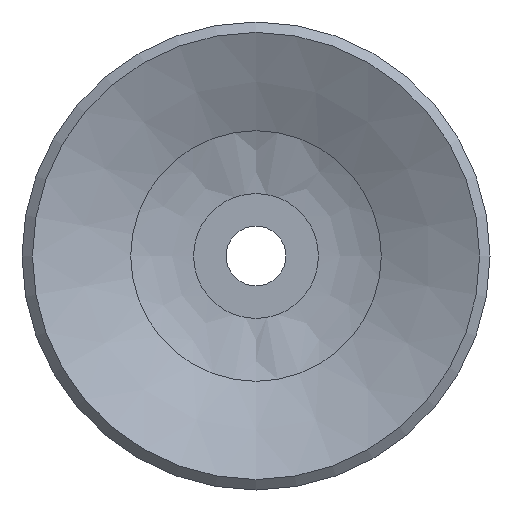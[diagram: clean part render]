
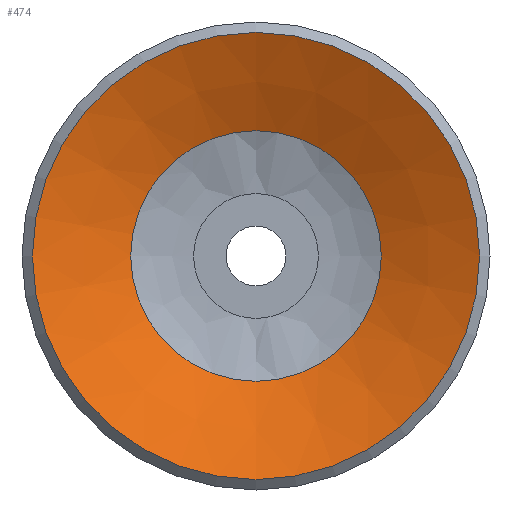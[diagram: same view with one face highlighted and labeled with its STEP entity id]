
A CAD part, front view. The second image highlights one B-rep face of the part: STEP entity #474.
In plain terms, the highlighted conical face has half-angle 65.056 degrees and reference radius 3.2 mm.
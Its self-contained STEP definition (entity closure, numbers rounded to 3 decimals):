
#474=ADVANCED_FACE('',(#680,#681),#682,.F.);
#680=FACE_BOUND('',#911,.T.);
#681=FACE_OUTER_BOUND('',#912,.T.);
#682=CONICAL_SURFACE('',#913,3.2,1.135);
#911=EDGE_LOOP('',(#1479));
#912=EDGE_LOOP('',(#1480));
#913=AXIS2_PLACEMENT_3D('',#1481,#1482,#1483);
#1479=ORIENTED_EDGE('',*,*,#1677,.T.);
#1480=ORIENTED_EDGE('',*,*,#1678,.T.);
#1481=CARTESIAN_POINT('',(0.0,7.896,0.0));
#1482=DIRECTION('',(-0.0,-1.0,0.));
#1483=DIRECTION('',(0.0,0.,-1.0));
#1677=EDGE_CURVE('',#1918,#1918,#1919,.T.);
#1678=EDGE_CURVE('',#1920,#1920,#1921,.T.);
#1918=VERTEX_POINT('',#2478);
#1919=CIRCLE('',#2479,4.203);
#1920=VERTEX_POINT('',#2480);
#1921=CIRCLE('',#2481,7.5);
#2478=CARTESIAN_POINT('',(0.0,7.43,-4.203));
#2479=AXIS2_PLACEMENT_3D('',#2716,#2717,#2718);
#2480=CARTESIAN_POINT('',(0.0,5.896,-7.5));
#2481=AXIS2_PLACEMENT_3D('',#2719,#2720,#2721);
#2716=CARTESIAN_POINT('',(0.0,7.43,0.0));
#2717=DIRECTION('',(0.0,1.0,0.));
#2718=DIRECTION('',(0.0,0.,-1.0));
#2719=CARTESIAN_POINT('',(0.0,5.896,0.0));
#2720=DIRECTION('',(0.0,-1.0,0.));
#2721=DIRECTION('',(0.0,0.,-1.0));
